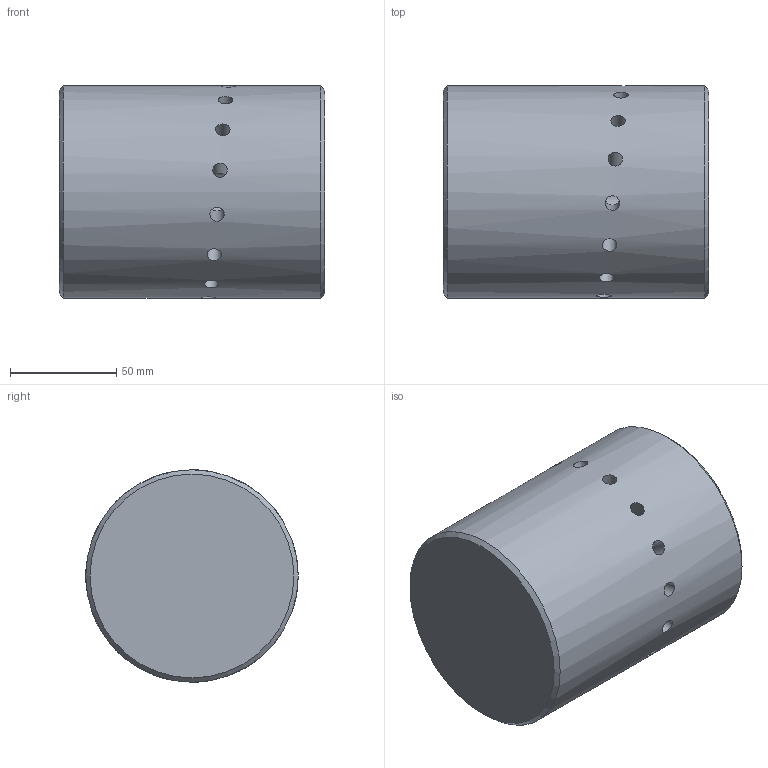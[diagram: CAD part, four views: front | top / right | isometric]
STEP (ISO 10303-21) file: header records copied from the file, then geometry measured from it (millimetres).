
FILE_DESCRIPTION((''),'2;1');
FILE_NAME('C:\Users\User\Desktop\Mastercam-harjoitukset\Mastercam_Multiaxis_6.stp','2020-05-18T23:43:40',(''),(''),'STEP Write','Mastercam 2020 ... CNC Software, Inc.','');
FILE_SCHEMA(('AUTOMOTIVE_DESIGN'));
Length unit declared in the file: millimetre
Products named in the file (1): None
Bounding box: 125 x 100 x 100 mm (x, y, z)
Volume: 866123.3 mm3; surface area: 80035.6 mm2
Topology: 1 solids, 1 shells, 74 faces, 238 edges, 164 vertices
Faces by surface type: cylinder 41, cone 27, plane 4, torus 2
Full cylindrical faces by diameter (mm): 5 x8, 6.8 x15, 8 x15, 70 x1, 90 x1, 100 x1
Entity records: 4442 total; most frequent: CARTESIAN_POINT 2765, DIRECTION 268, ORIENTED_EDGE 268, EDGE_LOOP 176, FACE_BOUND 145, AXIS2_PLACEMENT_3D 134, VERTEX_POINT 134, EDGE_CURVE 134
